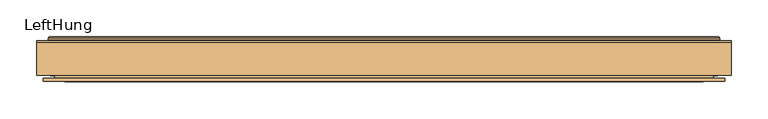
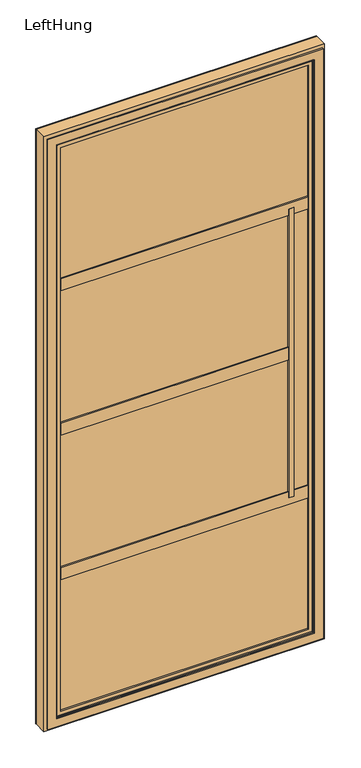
"""IFC4 building model written with IfcOpenShell, lengths in millimetres: door geometry, SMARTS_HeritageDoor 3Rail : LeftHung."""

from ifc_helpers import new_model, si_unit, frame, origin, place, context, project, spatial, polyline, ellipse_curve, outline, extrude, source, transform, mapped, element, save
from ifc_brep_helpers import plane_surface, cylinder_surface, revolved_surface, advanced_brep


def lefthung_39af8336(model_context):
    return source(origin(), model_context, "Body", "SolidModel", [
        extrude(outline(polyline([(425.6945959, -66.0), (-425.6945959, -66.0), (-425.6945959, -62.0), (425.6945959, -62.0), (425.6945959, -66.0)])), frame((0.0, 0.0, 853.5), z_axis=(0.0, 0.0, 1.0), x_axis=(1.0, 0.0, 0.0)), (0.0, 0.0, 1.0), 2013.0),
        extrude(outline(polyline([(425.6945959, -46.0), (-425.6945959, -46.0), (-425.6945959, -42.0), (425.6945959, -42.0), (425.6945959, -46.0)])), frame((0.0, 0.0, 853.5), z_axis=(0.0, 0.0, 1.0), x_axis=(1.0, 0.0, 0.0)), (0.0, 0.0, 1.0), 2013.0),
        extrude(outline(polyline([(2866.5, -425.6945959), (853.5, -425.6945959), (853.5, 425.6945959), (2866.5, 425.6945959), (2866.5, -425.6945959)]), holes=[polyline([(2856.5, 415.6945959), (863.5, 415.6945959), (863.5, -415.6945959), (2856.5, -415.6945959), (2856.5, 415.6945959)])]), frame((0.0, -62.0, 0.0), z_axis=(0.0, 1.0, 0.0), x_axis=(0.0, 0.0, 1.0)), (0.0, 0.0, 1.0), 16.0),
        extrude(outline(polyline([(363.9565704, -38.3), (348.9565704, -38.3), (348.9565704, -27.0), (363.9565704, -27.0), (363.9565704, -38.3)])), frame((0.0, 0.0, 1350.0), z_axis=(0.0, 0.0, 1.0), x_axis=(1.0, 0.0, 0.0)), (0.0, 0.0, 1.0), 1020.0),
        extrude(outline(polyline([(429.1945959, -27.0), (429.1945959, -57.9), (363.9565704, -57.9), (363.9565704, -27.0), (429.1945959, -27.0)])), frame((0.0, 0.0, 1350.0), z_axis=(0.0, 0.0, 1.0), x_axis=(1.0, 0.0, 0.0)), (0.0, 0.0, 1.0), 1020.0),
        extrude(outline(polyline([(348.9565704, -69.6), (363.9565704, -69.6), (363.9565704, -57.9), (429.3945959, -57.9), (429.3945959, -67.9), (365.6565704, -67.9), (365.6565704, -73.8), (348.9565704, -73.8), (348.9565704, -69.6)])), frame((0.0, 0.0, 1350.0), z_axis=(0.0, 0.0, 1.0), x_axis=(1.0, 0.0, 0.0)), (0.0, 0.0, 1.0), 1020.0),
        extrude(outline(polyline([(2870.0052956, -429.1998915), (849.9947044, -429.1998915), (849.9947044, 429.1998915), (2870.0052956, 429.1998915), (2870.0052956, -429.1998915)]), holes=[polyline([(2855.0, 414.1945959), (865.0, 414.1945959), (865.0, -414.1945959), (2855.0, -414.1945959), (2855.0, 414.1945959)])]), frame((0.0, -39.3, 0.0), z_axis=(0.0, 1.0, 0.0), x_axis=(0.0, 0.0, 1.0)), (0.0, 0.0, 1.0), 11.3),
        extrude(outline(polyline([(2885.6451958, 444.8397917), (2885.6451958, -444.8397917), (834.3548042, -444.8397917), (834.3548042, 444.8397917), (2885.6451958, 444.8397917)]), holes=[polyline([(850.0, 429.1945959), (850.0, -429.1945959), (2870.0, -429.1945959), (2870.0, 429.1945959), (850.0, 429.1945959)])]), frame((0.0, -69.6, 0.0), z_axis=(0.0, 1.0, 0.0), x_axis=(0.0, 0.0, 1.0)), (0.0, 0.0, 1.0), 41.6),
        advanced_brep(
        [(414.1945959, -74.8, 2855.0), (414.1945959, -69.6, 2855.0), (414.1945959, -69.6, 865.0), (414.1945959, -74.8, 865.0), (-414.1945959, -69.6, 865.0), (-414.1945959, -74.8, 865.0), (-414.1945959, -69.6, 2855.0), (-414.1945959, -74.8, 2855.0), (460.3945959, -76.0, 2901.2), (460.3945959, -80.0, 2901.2), (460.3945959, -80.0, 818.8), (460.3945959, -76.0, 818.8), (-460.3945959, -80.0, 818.8), (-460.3945959, -76.0, 818.8), (-460.3945959, -80.0, 2901.2), (-460.3945959, -76.0, 2901.2), (445.3413616, -76.0, 2886.1467657), (-445.3413616, -76.0, 2886.1467657), (-445.3413616, -76.0, 833.8532343), (445.3413616, -76.0, 833.8532343), (431.3945959, -80.0, 847.8), (-431.3945959, -80.0, 847.8), (-431.3945959, -80.0, 2872.2), (431.3945959, -80.0, 2872.2), (445.3413616, -69.6, 2886.1467657), (445.3413616, -69.6, 833.8532343), (-445.3413616, -69.6, 833.8532343), (-445.3413616, -69.6, 2886.1467657), (429.3945959, -78.0, 2870.2), (429.3945959, -76.8, 2870.2), (429.3945959, -76.8, 849.8), (429.3945959, -78.0, 849.8), (427.3945959, -74.8, 2868.2), (427.3945959, -74.8, 851.8), (-429.3945959, -76.8, 849.8), (-429.3945959, -78.0, 849.8), (-427.3945959, -74.8, 851.8), (-429.3945959, -76.8, 2870.2), (-429.3945959, -78.0, 2870.2), (-427.3945959, -74.8, 2868.2)],
        [
            (0, 1),
            (1, 2),
            (2, 3),
            (3, 0),
            (2, 4),
            (4, 5),
            (5, 3),
            (4, 6),
            (6, 7),
            (7, 5),
            (6, 1),
            (0, 7),
            (8, 9),
            (9, 10),
            (10, 11),
            (11, 8),
            (10, 12),
            (12, 13),
            (13, 11),
            (12, 14),
            (14, 15),
            (15, 13),
            (15, 8),
            (16, 17),
            (17, 18),
            (18, 19),
            (19, 16),
            (14, 9),
            (20, 21),
            (21, 22),
            (22, 23),
            (23, 20),
            (24, 16),
            (19, 25),
            (25, 24),
            (18, 26),
            (26, 25),
            (17, 27),
            (27, 26),
            (27, 24),
            (28, 29),
            (29, 30),
            (30, 31),
            (31, 28),
            (29, 32, ellipse_curve(frame((427.3945959, -76.8, 2868.2), z_axis=(-0.7071067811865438, 0.0, 0.7071067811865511), x_axis=(-0.707106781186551, 0.0, -0.7071067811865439)), 2.8284271, 2.0)),
            (32, 33),
            (33, 30, ellipse_curve(frame((427.3945959, -76.8, 851.8), z_axis=(-0.7071067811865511, 0.0, -0.7071067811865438), x_axis=(0.7071067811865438, 0.0, -0.7071067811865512)), 2.8284271, 2.0)),
            (30, 34),
            (34, 35),
            (35, 31),
            (33, 36),
            (36, 34, ellipse_curve(frame((-427.3945959, -76.8, 851.8), z_axis=(-0.7071067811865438, 0.0, 0.7071067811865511), x_axis=(-0.7071067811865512, 0.0, -0.7071067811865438)), 2.8284271, 2.0)),
            (34, 37),
            (37, 38),
            (38, 35),
            (36, 39),
            (39, 37, ellipse_curve(frame((-427.3945959, -76.8, 2868.2), z_axis=(0.7071067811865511, 0.0, 0.7071067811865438), x_axis=(-0.7071067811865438, 0.0, 0.7071067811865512)), 2.8284271, 2.0)),
            (32, 39),
            (37, 29),
            (28, 38),
            (23, 28, ellipse_curve(frame((431.3945959, -78.0, 2872.2), z_axis=(0.7071067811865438, 0.0, -0.7071067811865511), x_axis=(0.707106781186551, 0.0, 0.7071067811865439)), 2.8284271, 2.0)),
            (31, 20, ellipse_curve(frame((431.3945959, -78.0, 847.8), z_axis=(0.7071067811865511, 0.0, 0.7071067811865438), x_axis=(-0.7071067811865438, 0.0, 0.7071067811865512)), 2.8284271, 2.0)),
            (35, 21, ellipse_curve(frame((-431.3945959, -78.0, 847.8), z_axis=(0.7071067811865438, 0.0, -0.7071067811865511), x_axis=(0.7071067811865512, 0.0, 0.7071067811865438)), 2.8284271, 2.0)),
            (38, 22, ellipse_curve(frame((-431.3945959, -78.0, 2872.2), z_axis=(-0.7071067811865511, 0.0, -0.7071067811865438), x_axis=(0.7071067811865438, 0.0, -0.7071067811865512)), 2.8284271, 2.0)),
        ],
        [
            plane_surface(frame((414.1945959, -69.6, 2855.0), z_axis=(-1.0, 0.0, 0.0), x_axis=(0.0, 0.0, -1.0))),
            plane_surface(frame((414.1945959, -69.6, 865.0), z_axis=(0.0, 0.0, 1.0), x_axis=(-1.0, 0.0, 0.0))),
            plane_surface(frame((-414.1945959, -69.6, 865.0), z_axis=(1.0, 0.0, 0.0), x_axis=(0.0, 0.0, 1.0))),
            plane_surface(frame((-414.1945959, -69.6, 2855.0), z_axis=(0.0, 0.0, -1.0), x_axis=(1.0, 0.0, 0.0))),
            plane_surface(frame((460.3945959, -80.0, 2901.2), z_axis=(1.0, 0.0, 0.0), x_axis=(0.0, 0.0, -1.0))),
            plane_surface(frame((460.3945959, -80.0, 818.8), z_axis=(0.0, 0.0, -1.0), x_axis=(-1.0, 0.0, 0.0))),
            plane_surface(frame((-460.3945959, -80.0, 818.8), z_axis=(-1.0, 0.0, 0.0), x_axis=(0.0, 0.0, 1.0))),
            plane_surface(frame((-460.3945959, -76.0, 2901.2), z_axis=(0.0, 1.0, 0.0), x_axis=(1.0, 0.0, 0.0))),
            plane_surface(frame((-460.3945959, -80.0, 2901.2), z_axis=(0.0, 0.0, 1.0), x_axis=(1.0, 0.0, 0.0))),
            plane_surface(frame((-431.3945959, -80.0, 2872.2), z_axis=(0.0, -1.0, 0.0), x_axis=(1.0, 0.0, 0.0))),
            plane_surface(frame((445.3413616, -76.0, 2886.1467657), z_axis=(1.0, 0.0, 0.0), x_axis=(0.0, 0.0, -1.0))),
            plane_surface(frame((445.3413616, -76.0, 833.8532343), z_axis=(0.0, 0.0, -1.0), x_axis=(-1.0, 0.0, 0.0))),
            plane_surface(frame((-445.3413616, -76.0, 833.8532343), z_axis=(-1.0, 0.0, 0.0), x_axis=(0.0, 0.0, 1.0))),
            plane_surface(frame((-445.3413616, -69.6, 2886.1467657), z_axis=(0.0, 1.0, 0.0), x_axis=(1.0, 0.0, 0.0))),
            plane_surface(frame((-445.3413616, -76.0, 2886.1467657), z_axis=(0.0, 0.0, 1.0), x_axis=(1.0, 0.0, 0.0))),
            plane_surface(frame((429.3945959, -76.8, 2870.2), z_axis=(-1.0, 0.0, 0.0), x_axis=(0.0, 0.0, -1.0))),
            revolved_surface(polyline([(429.3945959, -76.8, 849.8), (429.3945959, -76.8, 2870.2)]), (427.3945959, -76.8, 2880.0), (0.0, 0.0, -1.0)),
            plane_surface(frame((429.3945959, -76.8, 849.8), z_axis=(0.0, 0.0, 1.0), x_axis=(-1.0, 0.0, 0.0))),
            revolved_surface(polyline([(-429.39459589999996, -76.8, 849.8), (429.3945959, -76.8, 849.8)]), (439.1945959, -76.8, 851.8), (-1.0, 0.0, 0.0)),
            plane_surface(frame((-429.3945959, -76.8, 849.8), z_axis=(1.0, 0.0, 0.0), x_axis=(0.0, 0.0, 1.0))),
            revolved_surface(polyline([(-429.3945959, -76.8, 2870.2), (-429.3945959, -76.8, 849.8)]), (-427.3945959, -76.8, 840.0), (0.0, 0.0, 1.0)),
            plane_surface(frame((-414.1945959, -74.8, 2855.0), z_axis=(0.0, -1.0, 0.0), x_axis=(1.0, 0.0, 0.0))),
            plane_surface(frame((-429.3945959, -76.8, 2870.2), z_axis=(0.0, 0.0, -1.0), x_axis=(1.0, 0.0, 0.0))),
            revolved_surface(polyline([(429.39459589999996, -76.8, 2870.2), (-429.3945959, -76.8, 2870.2)]), (-439.1945959, -76.8, 2868.2), (1.0, 0.0, 0.0)),
            cylinder_surface(frame((431.3945959, -78.0, 2880.0), z_axis=(0.0, 0.0, 1.0), x_axis=(1.0, 0.0, 0.0)), 2.0),
            cylinder_surface(frame((439.1945959, -78.0, 847.8), z_axis=(1.0, 0.0, 0.0), x_axis=(0.0, 0.0, -1.0)), 2.0),
            cylinder_surface(frame((-431.3945959, -78.0, 840.0), z_axis=(0.0, 0.0, -1.0), x_axis=(-1.0, 0.0, 0.0)), 2.0),
            cylinder_surface(frame((-439.1945959, -78.0, 2872.2), z_axis=(-1.0, 0.0, 0.0), x_axis=(0.0, 0.0, 1.0)), 2.0),
        ],
        [
            (0, [[1, 2, 3, 4]]),
            (1, [[-3, 5, 6, 7]]),
            (2, [[-6, 8, 9, 10]]),
            (3, [[-9, 11, -1, 12]]),
            (4, [[13, 14, 15, 16]]),
            (5, [[-15, 17, 18, 19]]),
            (6, [[-18, 20, 21, 22]]),
            (7, [[-19, -22, 23, -16], [24, 25, 26, 27]]),
            (8, [[-21, 28, -13, -23]]),
            (9, [[-28, -20, -17, -14], [29, 30, 31, 32]]),
            (10, [[33, -27, 34, 35]]),
            (11, [[-34, -26, 36, 37]]),
            (12, [[-36, -25, 38, 39]]),
            (13, [[-37, -39, 40, -35], [-11, -8, -5, -2]]),
            (14, [[-38, -24, -33, -40]]),
            (15, [[41, 42, 43, 44]]),
            (16, [[45, 46, 47, -42]]),
            (17, [[-43, 48, 49, 50]]),
            (18, [[-47, 51, 52, -48]]),
            (19, [[-49, 53, 54, 55]]),
            (20, [[-52, 56, 57, -53]]),
            (21, [[58, -56, -51, -46], [-7, -10, -12, -4]]),
            (22, [[-54, 59, -41, 60]]),
            (23, [[-57, -58, -45, -59]]),
            (24, [[61, -44, 62, -32]]),
            (25, [[-62, -50, 63, -29]]),
            (26, [[-63, -55, 64, -30]]),
            (27, [[-64, -60, -61, -31]]),
        ],
    ),
        extrude(outline(polyline([(-414.1945959, -38.4690746), (-414.1945959, -27.1690746), (348.9565704, -27.1690746), (348.9565704, -38.4690746), (-414.1945959, -38.4690746)])), frame((0.0, 0.0, 1838.75), z_axis=(0.0, 0.0, 1.0), x_axis=(1.0, 0.0, 0.0)), (0.0, 0.0, 1.0), 16.15),
        extrude(outline(polyline([(-414.1945959, -38.4690746), (-414.1945959, -27.1690746), (348.9565704, -27.1690746), (348.9565704, -38.4690746), (-414.1945959, -38.4690746)])), frame((0.0, 0.0, 1866.25), z_axis=(0.0, 0.0, 1.0), x_axis=(1.0, 0.0, 0.0)), (0.0, 0.0, 1.0), 15.0052956),
        extrude(outline(polyline([(-414.1945959, -53.5843537), (-414.1945959, -27.1690746), (348.9565704, -27.1690746), (348.9565704, -53.5843537), (-414.1945959, -53.5843537)])), frame((0.0, 0.0, 1853.75), z_axis=(0.0, 0.0, 1.0), x_axis=(1.0, 0.0, 0.0)), (0.0, 0.0, 1.0), 12.5),
        extrude(outline(polyline([(-69.9690746, 1881.2552956), (-69.9690746, 1866.25), (-53.5843537, 1866.25), (-53.5843537, 1853.75), (-69.9690746, 1853.75), (-69.9690746, 1838.75), (-73.9687074, 1838.75), (-73.9687074, 1881.2552956), (-69.9690746, 1881.2552956)])), frame((-414.1945959, 0.0, 0.0), z_axis=(1.0, 0.0, 0.0), x_axis=(0.0, 1.0, 0.0)), (0.0, 0.0, 1.0), 763.3891918),
        extrude(outline(polyline([(-414.1945959, -38.4690746), (-414.1945959, -27.1690746), (414.1945959, -27.1690746), (414.1945959, -38.4690746), (-414.1945959, -38.4690746)])), frame((0.0, 0.0, 2348.75), z_axis=(0.0, 0.0, 1.0), x_axis=(1.0, 0.0, 0.0)), (0.0, 0.0, 1.0), 16.15),
        extrude(outline(polyline([(-414.1945959, -38.4690746), (-414.1945959, -27.1690746), (414.1945959, -27.1690746), (414.1945959, -38.4690746), (-414.1945959, -38.4690746)])), frame((0.0, 0.0, 2376.25), z_axis=(0.0, 0.0, 1.0), x_axis=(1.0, 0.0, 0.0)), (0.0, 0.0, 1.0), 15.0052956),
        extrude(outline(polyline([(-414.1945959, -53.5843537), (-414.1945959, -27.1690746), (414.1945959, -27.1690746), (414.1945959, -53.5843537), (-414.1945959, -53.5843537)])), frame((0.0, 0.0, 2363.75), z_axis=(0.0, 0.0, 1.0), x_axis=(1.0, 0.0, 0.0)), (0.0, 0.0, 1.0), 12.5),
        extrude(outline(polyline([(-69.9690746, 2391.2552956), (-69.9690746, 2376.25), (-53.5843537, 2376.25), (-53.5843537, 2363.75), (-69.9690746, 2363.75), (-69.9690746, 2348.75), (-73.9687074, 2348.75), (-73.9687074, 2391.2552956), (-69.9690746, 2391.2552956)])), frame((-414.1945959, 0.0, 0.0), z_axis=(1.0, 0.0, 0.0), x_axis=(0.0, 1.0, 0.0)), (0.0, 0.0, 1.0), 828.3891918),
        extrude(outline(polyline([(-414.1945959, -38.4690746), (-414.1945959, -27.1690746), (414.1945959, -27.1690746), (414.1945959, -38.4690746), (-414.1945959, -38.4690746)])), frame((0.0, 0.0, 1328.75), z_axis=(0.0, 0.0, 1.0), x_axis=(1.0, 0.0, 0.0)), (0.0, 0.0, 1.0), 16.15),
        extrude(outline(polyline([(-414.1945959, -38.4690746), (-414.1945959, -27.1690746), (414.1945959, -27.1690746), (414.1945959, -38.4690746), (-414.1945959, -38.4690746)])), frame((0.0, 0.0, 1356.25), z_axis=(0.0, 0.0, 1.0), x_axis=(1.0, 0.0, 0.0)), (0.0, 0.0, 1.0), 15.0052956),
        extrude(outline(polyline([(-414.1945959, -53.5843537), (-414.1945959, -27.1690746), (414.1945959, -27.1690746), (414.1945959, -53.5843537), (-414.1945959, -53.5843537)])), frame((0.0, 0.0, 1343.75), z_axis=(0.0, 0.0, 1.0), x_axis=(1.0, 0.0, 0.0)), (0.0, 0.0, 1.0), 12.5),
        extrude(outline(polyline([(-69.9690746, 1371.2552956), (-69.9690746, 1356.25), (-53.5843537, 1356.25), (-53.5843537, 1343.75), (-69.9690746, 1343.75), (-69.9690746, 1328.75), (-73.9687074, 1328.75), (-73.9687074, 1371.2552956), (-69.9690746, 1371.2552956)])), frame((-414.1945959, 0.0, 0.0), z_axis=(1.0, 0.0, 0.0), x_axis=(0.0, 1.0, 0.0)), (0.0, 0.0, 1.0), 828.3891918),
        advanced_brep(
        [(436.1945959, -20.0, 2877.0), (436.1945959, -20.0, 843.0), (436.1945959, -24.0, 843.0), (436.1945959, -24.0, 2877.0), (451.4945777, -24.0, 2892.2999818), (451.4945777, -24.0, 827.7000182), (451.4945777, -27.0000138, 827.7000182), (451.4945777, -27.0000138, 2892.2999818), (453.6945777, -23.5000138, 2894.4999818), (453.6945777, -23.5000138, 825.5000182), (453.6945777, -22.0, 825.5000182), (453.6945777, -22.0, 2894.4999818), (-436.1945959, -20.0, 843.0), (-436.1945959, -24.0, 843.0), (-451.4945777, -24.0, 827.7000182), (-451.4945777, -27.0000138, 827.7000182), (-453.6945777, -23.5000138, 825.5000182), (-453.6945777, -22.0, 825.5000182), (-436.1945959, -20.0, 2877.0), (-436.1945959, -24.0, 2877.0), (-451.4945777, -24.0, 2892.2999818), (-451.4945777, -27.0000138, 2892.2999818), (-453.6945777, -23.5000138, 2894.4999818), (-453.6945777, -22.0, 2894.4999818), (455.1945777, -25.0000138, 2895.9999818), (455.1945777, -25.0000138, 824.0000182), (469.1945959, -27.0000138, 2910.0), (469.1945959, -27.0000138, 810.0), (469.1945959, -25.0000138, 810.0), (469.1945959, -25.0000138, 2910.0), (-455.1945777, -25.0000138, 824.0000182), (-469.1945959, -27.0000138, 810.0), (-469.1945959, -25.0000138, 810.0), (-455.1945777, -25.0000138, 2895.9999818), (-469.1945959, -27.0000138, 2910.0), (-469.1945959, -25.0000138, 2910.0), (451.6945777, -20.0, 2892.4999818), (451.6945777, -20.0, 827.5000182), (-451.6945777, -20.0, 827.5000182), (-451.6945777, -20.0, 2892.4999818)],
        [
            (0, 1),
            (1, 2),
            (2, 3),
            (3, 0),
            (4, 5),
            (5, 6),
            (6, 7),
            (7, 4),
            (8, 9),
            (9, 10),
            (10, 11),
            (11, 8),
            (1, 12),
            (12, 13),
            (13, 2),
            (5, 14),
            (14, 15),
            (15, 6),
            (9, 16),
            (16, 17),
            (17, 10),
            (12, 18),
            (18, 19),
            (19, 13),
            (14, 20),
            (20, 21),
            (21, 15),
            (16, 22),
            (22, 23),
            (23, 17),
            (18, 0),
            (3, 19),
            (4, 20),
            (7, 21),
            (22, 8),
            (11, 23),
            (24, 25),
            (25, 9, ellipse_curve(frame((455.1945777, -23.5000138, 824.0000182), z_axis=(-0.7071067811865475, 0.0, -0.7071067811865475), x_axis=(0.7071067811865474, 0.0, -0.7071067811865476)), 2.1213203, 1.5)),
            (8, 24, ellipse_curve(frame((455.1945777, -23.5000138, 2895.9999818), z_axis=(-0.7071067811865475, 0.0, 0.7071067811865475), x_axis=(-0.7071067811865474, 0.0, -0.7071067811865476)), 2.1213203, 1.5)),
            (26, 27),
            (27, 28),
            (28, 29),
            (29, 26),
            (25, 30),
            (30, 16, ellipse_curve(frame((-455.1945777, -23.5000138, 824.0000182), z_axis=(-0.7071067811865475, 0.0, 0.7071067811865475), x_axis=(-0.7071067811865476, 0.0, -0.7071067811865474)), 2.1213203, 1.5)),
            (27, 31),
            (31, 32),
            (32, 28),
            (30, 33),
            (33, 22, ellipse_curve(frame((-455.1945777, -23.5000138, 2895.9999818), z_axis=(0.7071067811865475, 0.0, 0.7071067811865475), x_axis=(-0.7071067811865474, 0.0, 0.7071067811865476)), 2.1213203, 1.5)),
            (31, 34),
            (34, 35),
            (35, 32),
            (33, 24),
            (35, 29),
            (36, 37),
            (37, 38),
            (38, 39),
            (39, 36),
            (34, 26),
            (10, 37, ellipse_curve(frame((451.6945777, -22.0, 827.5000182), z_axis=(0.7071067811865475, 0.0, 0.7071067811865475), x_axis=(-0.7071067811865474, 0.0, 0.7071067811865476)), 2.8284271, 2.0)),
            (36, 11, ellipse_curve(frame((451.6945777, -22.0, 2892.4999818), z_axis=(0.7071067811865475, 0.0, -0.7071067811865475), x_axis=(0.7071067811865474, 0.0, 0.7071067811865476)), 2.8284271, 2.0)),
            (17, 38, ellipse_curve(frame((-451.6945777, -22.0, 827.5000182), z_axis=(0.7071067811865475, 0.0, -0.7071067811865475), x_axis=(0.7071067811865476, 0.0, 0.7071067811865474)), 2.8284271, 2.0)),
            (23, 39, ellipse_curve(frame((-451.6945777, -22.0, 2892.4999818), z_axis=(-0.7071067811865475, 0.0, -0.7071067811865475), x_axis=(0.7071067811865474, 0.0, -0.7071067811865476)), 2.8284271, 2.0)),
        ],
        [
            plane_surface(frame((436.1945959, -24.0, 2877.0), z_axis=(-1.0, 0.0, 0.0), x_axis=(0.0, 0.0, -1.0))),
            plane_surface(frame((451.4945777, -27.0000138, 2892.2999818), z_axis=(-1.0, 0.0, 0.0), x_axis=(0.0, 0.0, -1.0))),
            plane_surface(frame((453.6945777, -22.0, 2894.4999818), z_axis=(1.0, 0.0, 0.0), x_axis=(0.0, 0.0, -1.0))),
            plane_surface(frame((436.1945959, -24.0, 843.0), z_axis=(0.0, 0.0, 1.0), x_axis=(-1.0, 0.0, 0.0))),
            plane_surface(frame((451.4945777, -27.0000138, 827.7000182), z_axis=(0.0, 0.0, 1.0), x_axis=(-1.0, 0.0, 0.0))),
            plane_surface(frame((453.6945777, -22.0, 825.5000182), z_axis=(0.0, 0.0, -1.0), x_axis=(-1.0, 0.0, 0.0))),
            plane_surface(frame((-436.1945959, -24.0, 843.0), z_axis=(1.0, 0.0, 0.0), x_axis=(0.0, 0.0, 1.0))),
            plane_surface(frame((-451.4945777, -27.0000138, 827.7000182), z_axis=(1.0, 0.0, 0.0), x_axis=(0.0, 0.0, 1.0))),
            plane_surface(frame((-453.6945777, -22.0, 825.5000182), z_axis=(-1.0, 0.0, 0.0), x_axis=(0.0, 0.0, 1.0))),
            plane_surface(frame((-436.1945959, -24.0, 2877.0), z_axis=(0.0, 0.0, -1.0), x_axis=(1.0, 0.0, 0.0))),
            plane_surface(frame((-451.4945777, -24.0, 2892.2999818), z_axis=(0.0, -1.0, 0.0), x_axis=(1.0, 0.0, 0.0))),
            plane_surface(frame((-451.4945777, -27.0000138, 2892.2999818), z_axis=(0.0, 0.0, -1.0), x_axis=(1.0, 0.0, 0.0))),
            plane_surface(frame((-453.6945777, -22.0, 2894.4999818), z_axis=(0.0, 0.0, 1.0), x_axis=(1.0, 0.0, 0.0))),
            revolved_surface(polyline([(453.6945777, -23.5000138, 822.5000182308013), (453.6945777, -23.5000138, 2897.4999817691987)]), (455.1945777, -23.5000138, 2910.0), (0.0, 0.0, -1.0)),
            plane_surface(frame((469.1945959, -25.0000138, 2910.0), z_axis=(1.0, 0.0, 0.0), x_axis=(0.0, 0.0, -1.0))),
            revolved_surface(polyline([(-456.69457766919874, -23.5000138, 825.5000182), (456.6945776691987, -23.5000138, 825.5000182)]), (469.1945959, -23.5000138, 824.0000182), (-1.0, 0.0, 0.0)),
            plane_surface(frame((469.1945959, -25.0000138, 810.0), z_axis=(0.0, 0.0, -1.0), x_axis=(-1.0, 0.0, 0.0))),
            revolved_surface(polyline([(-453.6945777, -23.5000138, 2897.4999817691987), (-453.6945777, -23.5000138, 822.5000182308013)]), (-455.1945777, -23.5000138, 810.0), (0.0, 0.0, 1.0)),
            plane_surface(frame((-469.1945959, -25.0000138, 810.0), z_axis=(-1.0, 0.0, 0.0), x_axis=(0.0, 0.0, 1.0))),
            revolved_surface(polyline([(456.69457766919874, -23.5000138, 2894.4999818), (-456.6945776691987, -23.5000138, 2894.4999818)]), (-469.1945959, -23.5000138, 2895.9999818), (1.0, 0.0, 0.0)),
            plane_surface(frame((-455.1945777, -25.0000138, 2895.9999818), z_axis=(0.0, 1.0, 0.0), x_axis=(1.0, 0.0, 0.0))),
            plane_surface(frame((-436.1945959, -20.0, 2877.0), z_axis=(0.0, 1.0, 0.0), x_axis=(1.0, 0.0, 0.0))),
            plane_surface(frame((-469.1945959, -25.0000138, 2910.0), z_axis=(0.0, 0.0, 1.0), x_axis=(1.0, 0.0, 0.0))),
            plane_surface(frame((-469.1945959, -27.0000138, 2910.0), z_axis=(0.0, -1.0, 0.0), x_axis=(1.0, 0.0, 0.0))),
            cylinder_surface(frame((451.6945777, -22.0, 2910.0), z_axis=(0.0, 0.0, 1.0), x_axis=(-1.0, 0.0, 0.0)), 2.0),
            cylinder_surface(frame((469.1945959, -22.0, 827.5000182), z_axis=(1.0, 0.0, 0.0), x_axis=(0.0, 0.0, 1.0)), 2.0),
            cylinder_surface(frame((-451.6945777, -22.0, 810.0), z_axis=(0.0, 0.0, -1.0), x_axis=(1.0, 0.0, 0.0)), 2.0),
            cylinder_surface(frame((-469.1945959, -22.0, 2892.4999818), z_axis=(-1.0, 0.0, 0.0), x_axis=(0.0, 0.0, -1.0)), 2.0),
        ],
        [
            (0, [[1, 2, 3, 4]]),
            (1, [[5, 6, 7, 8]]),
            (2, [[9, 10, 11, 12]]),
            (3, [[13, 14, 15, -2]]),
            (4, [[16, 17, 18, -6]]),
            (5, [[19, 20, 21, -10]]),
            (6, [[22, 23, 24, -14]]),
            (7, [[25, 26, 27, -17]]),
            (8, [[28, 29, 30, -20]]),
            (9, [[31, -4, 32, -23]]),
            (10, [[-5, 33, -25, -16], [-3, -15, -24, -32]]),
            (11, [[-33, -8, 34, -26]]),
            (12, [[35, -12, 36, -29]]),
            (13, [[37, 38, -9, 39]]),
            (14, [[40, 41, 42, 43]]),
            (15, [[44, 45, -19, -38]]),
            (16, [[46, 47, 48, -41]]),
            (17, [[49, 50, -28, -45]]),
            (18, [[51, 52, 53, -47]]),
            (19, [[54, -39, -35, -50]]),
            (20, [[-42, -48, -53, 55], [-37, -54, -49, -44]]),
            (21, [[56, 57, 58, 59], [-1, -31, -22, -13]]),
            (22, [[60, -43, -55, -52]]),
            (23, [[-40, -60, -51, -46], [-7, -18, -27, -34]]),
            (24, [[-11, 61, -56, 62]]),
            (25, [[-21, 63, -57, -61]]),
            (26, [[-30, 64, -58, -63]]),
            (27, [[-36, -62, -59, -64]]),
        ],
    ),
        extrude(outline(polyline([(810.0, 469.1945959), (2910.0, 469.1945959), (2910.0, -469.1945959), (810.0, -469.1945959), (810.0, 469.1945959)]), holes=[polyline([(2892.2999818, 451.4945777), (827.7000182, 451.4945777), (827.7000182, -451.4945777), (2892.2999818, -451.4945777), (2892.2999818, 451.4945777)])]), frame((0.0, -72.0000099, 0.0), z_axis=(0.0, 1.0, 0.0), x_axis=(0.0, 0.0, 1.0)), (0.0, 0.0, 1.0), 44.9999962),
    ])


if __name__ == "__main__":
    model = new_model("IFC4")
    model_context = context("Model", 3, world=origin())
    ifc_project = project(units=[si_unit("LENGTHUNIT", "METRE", prefix="MILLI")], contexts=[model_context])
    site = spatial("IfcSite", under=ifc_project)
    building = spatial("IfcBuilding", under=site)
    placement = place(None, origin())
    lefthung_shape = lefthung_39af8336(model_context)
    element("IfcDoor", 1, ObjectType="SMARTS_HeritageDoor 3Rail : LeftHung", at=placement, inside=building, context=model_context, shape_type="MappedRepresentation", body=[
        mapped(lefthung_shape, transform((0.0, 0.0, 0.0), x_axis=(1.0, 0.0, 0.0), y_axis=(0.0, 1.0, 0.0), z_axis=(0.0, 0.0, 1.0))),
    ])
    save(model, "model.ifc")
